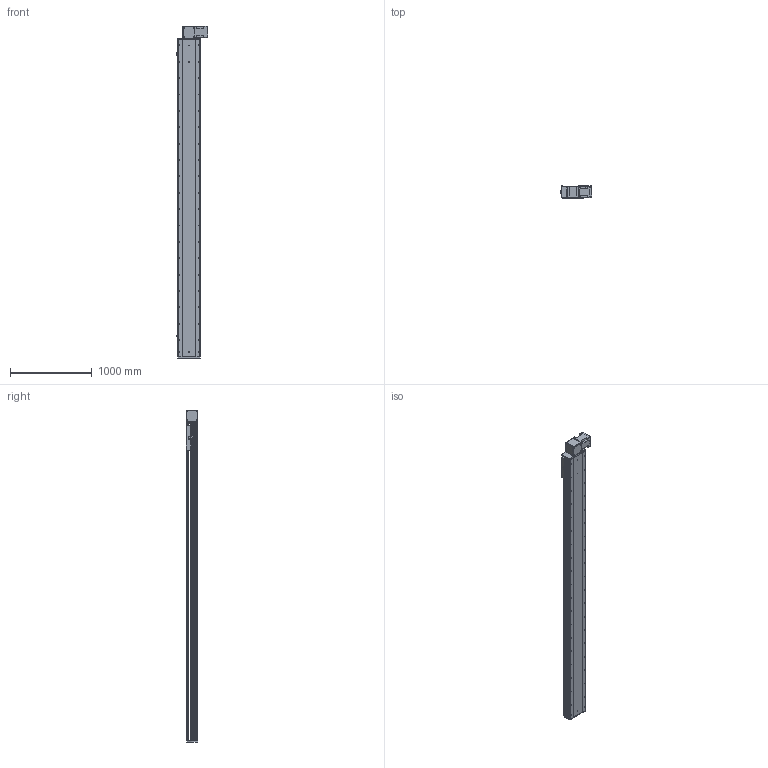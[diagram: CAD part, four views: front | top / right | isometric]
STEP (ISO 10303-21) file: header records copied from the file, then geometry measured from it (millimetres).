
FILE_DESCRIPTION (( 'STEP AP214' ), '1' );
FILE_NAME ('RTB28S-XX-3450-BL-M100-XX-C4.STEP', '2025-12-22T02:39:12', ( '' ), ( '' ), 'SwSTEP 2.0', 'SolidWorks 2018', '' );
FILE_SCHEMA (( 'AUTOMOTIVE_DESIGN' ));
Length unit declared in the file: millimetre
Products named in the file (4): RTB28S-GY-004^RTB28S-XX-XX-BL-M100-XX-C4; RTB28S-GY-008^RTB28S-XX-XX-BL-M100-XX-C4; RTB28S-XX-3450-BL-M100-XX-C4; RTB28S-GY-011^RTB28S-XX-XX-BL-M100-XX-C4
Assembly tree (3 placements, depth 2):
  RTB28S-XX-3450-BL-M100-XX-C4
    RTB28S-GY-011^RTB28S-XX-XX-BL-M100-XX-C4
    RTB28S-GY-004^RTB28S-XX-XX-BL-M100-XX-C4
    RTB28S-GY-008^RTB28S-XX-XX-BL-M100-XX-C4
Bounding box: 380.7 x 145 x 4057 mm (x, y, z)
Volume: 68198937.2 mm3; surface area: 6342656.2 mm2
Topology: 3 solids, 4 shells, 908 faces, 2448 edges, 1568 vertices
Faces by surface type: cylinder 455, plane 369, cone 80, torus 4
Entity records: 35345 total; most frequent: CARTESIAN_POINT 6802, DIRECTION 5214, ORIENTED_EDGE 4832, EDGE_CURVE 2416, AXIS2_PLACEMENT_3D 1932, VERTEX_POINT 1568, LINE 1350, VECTOR 1350
